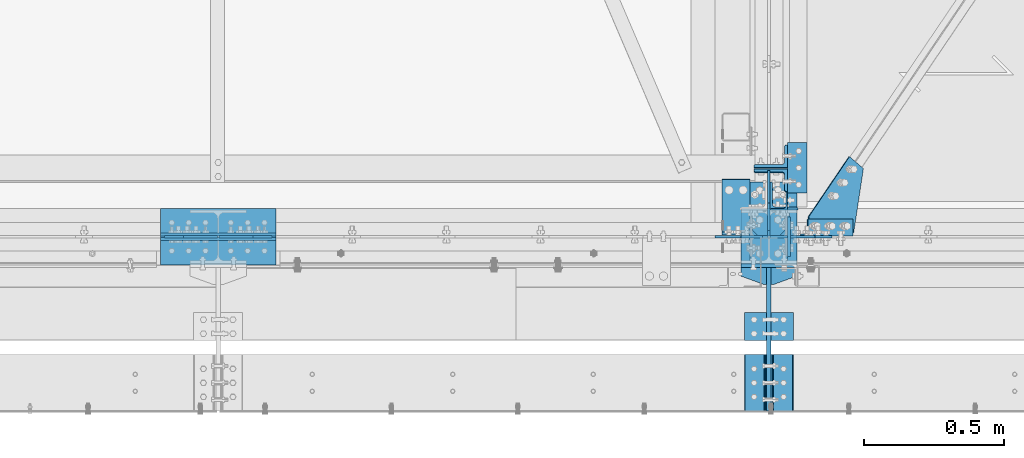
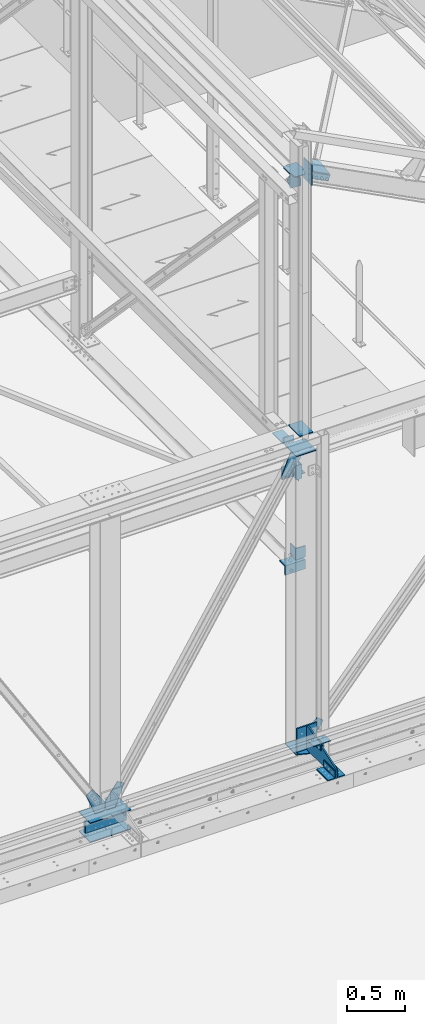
# One storey, part 85 of 362: 27 beams, 3 members, 21 elements without a shape of their own.
"""IFC2X3 building model written with IfcOpenShell, lengths in millimetres."""

from ifc_helpers import new_model, si_unit, frame, frame_2d, origin_with_axes, origin_2d_with_axis, place, context, subcontext, project, spatial, polyline, circle_curve, parameter, trimmed, segment, composite_curve, rectangle, l_section, outline, extrude, clip, halfspace, material, type_object, element, aggregate, save


model = new_model("IFC2X3")

# Units and contexts
model_context = context("Model", 3, precision=1e-05, world=origin_with_axes())
body_context = subcontext(model_context, "Body", "Model", "MODEL_VIEW")
ifc_project = project(units=[si_unit("LENGTHUNIT", "METRE", prefix="MILLI"), si_unit("AREAUNIT", "SQUARE_METRE"), si_unit("VOLUMEUNIT", "CUBIC_METRE"), si_unit("MASSUNIT", "GRAM", prefix="KILO"), si_unit("TIMEUNIT", "SECOND"), si_unit("PLANEANGLEUNIT", "RADIAN"), si_unit("SOLIDANGLEUNIT", "STERADIAN"), si_unit("THERMODYNAMICTEMPERATUREUNIT", "DEGREE_CELSIUS"), si_unit("LUMINOUSINTENSITYUNIT", "LUMEN")], contexts=[model_context])

# Site, building, storey
site_placement = place(None, origin_with_axes())
site = spatial("IfcSite", under=ifc_project, at=site_placement, Name="Undefined", CompositionType="ELEMENT")
building_placement = place(site_placement, origin_with_axes())
building = spatial("IfcBuilding", under=site, at=building_placement, Name="Undefined", CompositionType="ELEMENT")
storey_placement = place(building_placement, origin_with_axes())
storey = spatial("IfcBuildingStorey", under=building, at=storey_placement, Name="Undefined", CompositionType="ELEMENT", Elevation=0.0)

# Assembly, beam
assembly_1_placement = place(storey_placement, origin_with_axes())
assembly_1 = element("IfcElementAssembly", 1, at=assembly_1_placement, inside=storey, AssemblyPlace="NOTDEFINED", PredefinedType="NOTDEFINED")
ifc_material = material(Name="Undefined/S235-E24")
beam_type_1 = type_object("IfcBeamType", Name="L60*6", PredefinedType="NOTDEFINED")
beam_1_placement = place(assembly_1_placement, frame((23506.5000567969, 125.0, 8100.0), z_axis=(-1.0, 0.0, 0.0), x_axis=(0.0, 0.0, -1.0)))
beam_1 = element("IfcBeam", 2, at=beam_1_placement, type_object=beam_type_1, material=ifc_material, Name="ATTACHE", ObjectType="L60*6", context=body_context, shape_type="SweptSolid", body=[
    extrude(l_section(Depth=60.0, Width=60.0, Thickness=6.0, FilletRadius=8.0, EdgeRadius=4.0, at=origin_2d_with_axis()), frame((150.0, 0.0, 0.0), z_axis=(-1.0, 0.0, 0.0), x_axis=(0.0, -1.0, 0.0)), (0.0, 0.0, 1.0), 150.0),
])
aggregate(assembly_1, [beam_1])

assembly_2_placement = place(storey_placement, origin_with_axes())
assembly_2 = element("IfcElementAssembly", 3, at=assembly_2_placement, inside=storey, AssemblyPlace="NOTDEFINED", PredefinedType="NOTDEFINED")
beam_type_2 = type_object("IfcBeamType", Name="PL10*200", PredefinedType="NOTDEFINED")
beam_2_placement = place(assembly_2_placement, frame((21304.9998196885, 0.0, 4994.99960117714), z_axis=(0.0, 1.0, 0.0), x_axis=(0.999999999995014, 0.0, -3.15800000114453e-06)))
beam_2 = element("IfcBeam", 4, at=beam_2_placement, type_object=beam_type_2, material=ifc_material, Name="ECLISSE", ObjectType="PL10*200", context=body_context, shape_type="SweptSolid", body=[
    extrude(rectangle(XDim=10.0, YDim=200.0, at=origin_2d_with_axis()), frame((410.0, 0.0, 0.0), z_axis=(-1.0, 0.0, 0.0), x_axis=(0.0, -1.0, 0.0)), (0.0, 0.0, 1.0), 410.0),
])
aggregate(assembly_2, [beam_2])

# Assembly, beams
assembly_3_placement = place(storey_placement, origin_with_axes())
assembly_3 = element("IfcElementAssembly", 5, at=assembly_3_placement, inside=storey, Name="MONTANT", AssemblyPlace="NOTDEFINED", PredefinedType="NOTDEFINED")
beam_3_placement = place(assembly_3_placement, frame((23369.9982817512, 0.0, 8354.99930736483), z_axis=(0.0, 1.0, 0.0), x_axis=(1.0, 0.0, 0.0)))
beam_3 = element("IfcBeam", 6, at=beam_3_placement, type_object=beam_type_2, material=ifc_material, Name="PLATINE", ObjectType="PL10*200", context=body_context, shape_type="SweptSolid", body=[
    extrude(rectangle(XDim=10.0, YDim=200.0, at=origin_2d_with_axis()), frame((200.003108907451, 1.3235095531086e-21, 0.0), z_axis=(-1.0, 0.0, 0.0), x_axis=(0.0, -1.0, 0.0)), (0.0, 0.0, 1.0), 200.0),
])
beam_4_placement = place(assembly_3_placement, frame((23369.9982812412, 0.0, 5195.00069263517), z_axis=(0.0, 1.0, 0.0), x_axis=(1.0, 0.0, 0.0)))
beam_4 = element("IfcBeam", 7, at=beam_4_placement, type_object=beam_type_2, material=ifc_material, Name="PLATINE", ObjectType="PL10*200", context=body_context, shape_type="SweptSolid", body=[
    extrude(rectangle(XDim=10.0, YDim=200.0, at=origin_2d_with_axis()), frame((200.003108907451, 1.3235095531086e-21, 0.0), z_axis=(-1.0, 0.0, 0.0), x_axis=(0.0, -1.0, 0.0)), (0.0, 0.0, 1.0), 200.0),
])

# Assembly, beam
assembly_4_placement = place(storey_placement, origin_with_axes())
assembly_4 = element("IfcElementAssembly", 8, at=assembly_4_placement, inside=storey, Name="MONTANT", AssemblyPlace="NOTDEFINED", PredefinedType="NOTDEFINED")
beam_5_placement = place(assembly_4_placement, frame((21304.9998196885, 0.0, 5195.00039882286), z_axis=(0.0, 1.0, 0.0), x_axis=(0.999999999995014, 0.0, 3.15800000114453e-06)))
beam_5 = element("IfcBeam", 9, at=beam_5_placement, type_object=beam_type_2, material=ifc_material, Name="PLATINE", ObjectType="PL10*200", context=body_context, shape_type="SweptSolid", body=[
    extrude(rectangle(XDim=10.0, YDim=200.0, at=origin_2d_with_axis()), frame((410.0, 0.0, 0.0), z_axis=(-1.0, 0.0, 0.0), x_axis=(0.0, -1.0, 0.0)), (0.0, 0.0, 1.0), 410.0),
])

assembly_5_placement = place(storey_placement, origin_with_axes())
assembly_5 = element("IfcElementAssembly", 10, at=assembly_5_placement, inside=storey, AssemblyPlace="NOTDEFINED", PredefinedType="NOTDEFINED")
beam_type_3 = type_object("IfcBeamType", Name="L80*8", PredefinedType="NOTDEFINED")
beam_6_placement = place(assembly_5_placement, frame((23517.4921676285, -270.0, 5409.99824538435), z_axis=(0.0, 0.0, -1.0), x_axis=(0.0, -1.0, 0.0)))
beam_6 = element("IfcBeam", 11, at=beam_6_placement, type_object=beam_type_3, material=ifc_material, Name="ATTACHE", ObjectType="L80*8", context=body_context, shape_type="SweptSolid", body=[
    extrude(l_section(Depth=80.0, Width=80.0, Thickness=8.0, FilletRadius=10.0, EdgeRadius=5.0, at=origin_2d_with_axis()), frame((99.9999999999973, -1.63709046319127e-11, 7.73070496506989e-12), z_axis=(-1.0, 0.0, 0.0), x_axis=(0.0, -1.0, 0.0)), (0.0, 0.0, 1.0), 100.0),
])
aggregate(assembly_5, [beam_6])

assembly_6_placement = place(storey_placement, origin_with_axes())
assembly_6 = element("IfcElementAssembly", 12, at=assembly_6_placement, inside=storey, AssemblyPlace="NOTDEFINED", PredefinedType="NOTDEFINED")
beam_7_placement = place(assembly_6_placement, frame((23422.5, -370.0, 5409.99824538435), z_axis=(0.0, 0.0, -1.0), x_axis=(0.0, 1.0, 0.0)))
beam_7 = element("IfcBeam", 13, at=beam_7_placement, type_object=beam_type_3, material=ifc_material, Name="ATTACHE", ObjectType="L80*8", context=body_context, shape_type="SweptSolid", body=[
    extrude(l_section(Depth=80.0, Width=80.0, Thickness=8.0, FilletRadius=10.0, EdgeRadius=5.0, at=origin_2d_with_axis()), frame((99.9999999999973, -1.63709046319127e-11, 7.73070496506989e-12), z_axis=(-1.0, 0.0, 0.0), x_axis=(0.0, -1.0, 0.0)), (0.0, 0.0, 1.0), 100.0),
])
aggregate(assembly_6, [beam_7])

assembly_7_placement = place(storey_placement, origin_with_axes())
assembly_7 = element("IfcElementAssembly", 14, at=assembly_7_placement, inside=storey, AssemblyPlace="NOTDEFINED", PredefinedType="NOTDEFINED")
beam_8_placement = place(assembly_7_placement, frame((23517.4921676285, -620.0, 5269.99824538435), z_axis=(0.0, 0.0, 1.0), x_axis=(0.0, 1.0, 0.0)))
beam_8 = element("IfcBeam", 15, at=beam_8_placement, type_object=beam_type_3, material=ifc_material, Name="ATTACHE", ObjectType="L80*8", context=body_context, shape_type="SweptSolid", body=[
    extrude(l_section(Depth=80.0, Width=80.0, Thickness=8.0, FilletRadius=10.0, EdgeRadius=5.0, at=origin_2d_with_axis()), frame((200.0, 0.0, 0.0), z_axis=(-1.0, 0.0, 0.0), x_axis=(0.0, -1.0, 0.0)), (0.0, 0.0, 1.0), 200.0),
])
aggregate(assembly_7, [beam_8])

assembly_8_placement = place(storey_placement, origin_with_axes())
assembly_8 = element("IfcElementAssembly", 16, at=assembly_8_placement, inside=storey, AssemblyPlace="NOTDEFINED", PredefinedType="NOTDEFINED")
beam_9_placement = place(assembly_8_placement, frame((23422.5, -420.0, 5269.99824538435), z_axis=(0.0, 0.0, 1.0), x_axis=(0.0, -1.0, 0.0)))
beam_9 = element("IfcBeam", 17, at=beam_9_placement, type_object=beam_type_3, material=ifc_material, Name="ATTACHE", ObjectType="L80*8", context=body_context, shape_type="SweptSolid", body=[
    extrude(l_section(Depth=80.0, Width=80.0, Thickness=8.0, FilletRadius=10.0, EdgeRadius=5.0, at=origin_2d_with_axis()), frame((200.0, 0.0, 0.0), z_axis=(-1.0, 0.0, 0.0), x_axis=(0.0, -1.0, 0.0)), (0.0, 0.0, 1.0), 200.0),
])
aggregate(assembly_8, [beam_9])

# Assembly, beams
assembly_9_placement = place(storey_placement, origin_with_axes())
assembly_9 = element("IfcElementAssembly", 18, at=assembly_9_placement, inside=storey, Name="CONSOLE", AssemblyPlace="NOTDEFINED", PredefinedType="NOTDEFINED")
beam_type_4 = type_object("IfcBeamType", Name="TOLE10*60", PredefinedType="NOTDEFINED")
beam_10_placement = place(assembly_9_placement, frame((23370.0, -110.0, 5224.99824534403), z_axis=(0.0, 0.0, 1.0), x_axis=(0.0, -1.0, 0.0)))
beam_10 = element("IfcBeam", 19, at=beam_10_placement, type_object=beam_type_4, material=ifc_material, Name="RAIDISSEUR", ObjectType="TOLE10*60", context=body_context, shape_type="SweptSolid", body=[
    extrude(outline(polyline([(0.0, 0.0), (30.0, 0.0), (60.0, 82.5), (60.0, 117.5), (30.0, 200.0), (0.0, 200.0), (0.0, 0.0)])), frame((0.0, 0.0, -5.0), z_axis=(0.0, 0.0, 1.0), x_axis=(1.0, 0.0, 0.0)), (0.0, 0.0, 1.0), 10.0),
])
beam_type_5 = type_object("IfcBeamType", Name="PL15*200", PredefinedType="NOTDEFINED")
beam_11_placement = place(assembly_9_placement, frame((23470.0, -102.5, 5479.99824538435), z_axis=(1.0, 0.0, 0.0), x_axis=(0.0, 0.0, -1.0)))
beam_11 = element("IfcBeam", 20, at=beam_11_placement, type_object=beam_type_5, material=ifc_material, Name="PLATINE", ObjectType="PL15*200", context=body_context, shape_type="SweptSolid", body=[
    extrude(rectangle(XDim=15.0, YDim=200.0, at=origin_2d_with_axis()), frame((265.000000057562, 0.0, 0.0), z_axis=(-1.0, 0.0, 0.0), x_axis=(0.0, -1.0, 0.0)), (0.0, 0.0, 1.0), 265.0),
])
beam_type_6 = type_object("IfcBeamType", Name="TOLE15*250", PredefinedType="NOTDEFINED")
beam_12_placement = place(assembly_9_placement, frame((23470.0, -620.0, 5229.99824538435), z_axis=(-1.0, 0.0, 0.0), x_axis=(0.0, 0.0, 1.0)))
beam_12 = element("IfcBeam", 21, at=beam_12_placement, type_object=beam_type_6, material=ifc_material, Name="CONSOLE", ObjectType="TOLE15*250", context=body_context, shape_type="SweptSolid", body=[
    extrude(outline(polyline([(0.0, 0.0), (100.0, 0.0), (250.0, 450.0), (250.0, 510.0), (19.9999999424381, 510.0), (-5.53045894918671e-08, 490.0), (0.0, 0.0)])), frame((0.0, 0.0, -7.5), z_axis=(0.0, 0.0, 1.0), x_axis=(1.0, 0.0, 0.0)), (0.0, 0.0, 1.0), 15.0),
])
aggregate(assembly_9, [beam_10, beam_11, beam_12])

# Assembly, beam
assembly_10_placement = place(storey_placement, origin_with_axes())
assembly_10 = element("IfcElementAssembly", 22, at=assembly_10_placement, inside=storey, AssemblyPlace="NOTDEFINED", PredefinedType="NOTDEFINED")
beam_type_7 = type_object("IfcBeamType", Name="L70*7", PredefinedType="NOTDEFINED")
beam_13_placement = place(assembly_10_placement, frame((23571.5000574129, 335.0, 7915.0), z_axis=(0.0, 0.0, -1.0), x_axis=(0.0, -1.0, 0.0)))
beam_13 = element("IfcBeam", 23, at=beam_13_placement, type_object=beam_type_7, material=ifc_material, Name="ATTACHE", ObjectType="L70*7", context=body_context, shape_type="SweptSolid", body=[
    extrude(l_section(Depth=70.0, Width=70.0, Thickness=7.0, FilletRadius=9.0, EdgeRadius=4.5, at=origin_2d_with_axis()), frame((180.0, 0.0, 0.0), z_axis=(-1.0, 0.0, 0.0), x_axis=(0.0, -1.0, 0.0)), (0.0, 0.0, 1.0), 180.0),
])
aggregate(assembly_10, [beam_13])

# Assembly, member
assembly_11_placement = place(storey_placement, origin_with_axes())
assembly_11 = element("IfcElementAssembly", 24, at=assembly_11_placement, inside=storey, AssemblyPlace="NOTDEFINED", PredefinedType="NOTDEFINED")
member_type_1 = type_object("IfcMemberType", Name="L60*6", PredefinedType="NOTDEFINED")
member_1_placement = place(assembly_11_placement, frame((23755.3143945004, 33.0000627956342, 11104.2490486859), z_axis=(0.0, 1.0, 0.0), x_axis=(-0.887870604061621, -1.29999898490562e-08, 0.460093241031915)))
member_1 = element("IfcMember", 25, at=member_1_placement, type_object=member_type_1, material=ifc_material, Name="ATTACHE", ObjectType="L60*6", context=body_context, shape_type="SweptSolid", body=[
    extrude(l_section(Depth=60.0, Width=60.0, Thickness=6.0, FilletRadius=8.0, EdgeRadius=4.0, at=origin_2d_with_axis()), frame((180.0, 0.0, 0.0), z_axis=(-1.0, 0.0, 0.0), x_axis=(0.0, -1.0, 0.0)), (0.0, 0.0, 1.0), 180.0),
])
aggregate(assembly_11, [member_1])

# Assembly, beam
assembly_12_placement = place(storey_placement, origin_with_axes())
assembly_12 = element("IfcElementAssembly", 26, at=assembly_12_placement, inside=storey, AssemblyPlace="NOTDEFINED", PredefinedType="NOTDEFINED")
beam_type_8 = type_object("IfcBeamType", Name="TOLE6*178", PredefinedType="NOTDEFINED")
beam_14_placement = place(assembly_12_placement, frame((23805.2587665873, 242.886272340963, 11115.5356180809), z_axis=(0.460093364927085, 0.0, 0.887870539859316), x_axis=(-0.70611707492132, 0.606225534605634, 0.365908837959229)))
beam_14 = element("IfcBeam", 27, at=beam_14_placement, type_object=beam_type_8, material=ifc_material, Name="GOUSSET", ObjectType="TOLE6*178", context=body_context, shape_type="SweptSolid", body=[
    extrude(outline(polyline([(0.0, 0.0), (70.0, 0.0), (70.0000000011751, 269.669891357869), (34.9265289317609, 315.681945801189), (-108.226165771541, 206.561325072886), (0.0, 0.0)])), frame((0.0, 0.0, -3.0), z_axis=(0.0, 0.0, 1.0), x_axis=(1.0, 0.0, 0.0)), (0.0, 0.0, 1.0), 6.0),
])
aggregate(assembly_12, [beam_14])

assembly_13_placement = place(storey_placement, origin_with_axes())
assembly_13 = element("IfcElementAssembly", 28, at=assembly_13_placement, inside=storey, Name="MONTANT", AssemblyPlace="NOTDEFINED", PredefinedType="NOTDEFINED")
beam_type_9 = type_object("IfcBeamType", Name="PL10*133", PredefinedType="NOTDEFINED")
beam_15_placement = place(assembly_13_placement, frame((23470.0, 100.0, 8555.0), z_axis=(1.0, 0.0, 0.0), x_axis=(0.0, -1.0, 0.0)))
beam_15 = element("IfcBeam", 29, at=beam_15_placement, type_object=beam_type_9, material=ifc_material, Name="PLATINE", ObjectType="PL10*133", context=body_context, shape_type="SweptSolid", body=[
    extrude(rectangle(XDim=10.0, YDim=133.0, at=origin_2d_with_axis()), frame((200.0, 0.0, 0.0), z_axis=(-1.0, 0.0, 0.0), x_axis=(0.0, -1.0, 0.0)), (0.0, 0.0, 1.0), 200.0),
])

assembly_14_placement = place(storey_placement, origin_with_axes())
assembly_14 = element("IfcElementAssembly", 30, at=assembly_14_placement, inside=storey, AssemblyPlace="NOTDEFINED", PredefinedType="NOTDEFINED")
beam_type_10 = type_object("IfcBeamType", Name="L200*100*10", PredefinedType="NOTDEFINED")
beam_16_placement = place(assembly_14_placement, frame((23303.4999986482, 106.0, 8490.0), z_axis=(0.0, 1.0, 0.0), x_axis=(1.0, 0.0, 0.0)))
beam_16 = element("IfcBeam", 31, at=beam_16_placement, type_object=beam_type_10, material=ifc_material, Name="ATTACHE", ObjectType="L200*100*10", context=body_context, shape_type="Clipping", body=[
    clip(extrude(l_section(Depth=200.0, Width=100.0, Thickness=10.0, FilletRadius=15.0, EdgeRadius=7.5, at=origin_2d_with_axis()), frame((99.9999999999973, -1.63709046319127e-11, 7.73070496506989e-12), z_axis=(-1.0, 0.0, 0.0), x_axis=(0.0, -1.0, 0.0)), (0.0, 0.0, 1.0), 100.0), halfspace(frame((100.0, -20.0, -100.0), z_axis=(0.0, -1.0, 0.0), x_axis=(-1.0, 0.0, 0.0)), False)),
])
aggregate(assembly_14, [beam_16])

assembly_15_placement = place(storey_placement, origin_with_axes())
assembly_15 = element("IfcElementAssembly", 32, at=assembly_15_placement, inside=storey, Name="TRAVERSE SHED", AssemblyPlace="NOTDEFINED", PredefinedType="NOTDEFINED")
beam_type_11 = type_object("IfcBeamType", Name="PL10*140", PredefinedType="NOTDEFINED")
beam_17_placement = place(assembly_15_placement, frame((23541.5, 0.0, 11360.8449760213), z_axis=(0.0, -1.0, 0.0), x_axis=(0.0, 0.0, -1.0)))
beam_17 = element("IfcBeam", 33, at=beam_17_placement, type_object=beam_type_11, material=ifc_material, Name="PLATINE", ObjectType="PL10*140", context=body_context, shape_type="SweptSolid", body=[
    extrude(rectangle(XDim=10.0, YDim=140.0, at=origin_2d_with_axis()), frame((215.684581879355, 0.0, 0.0), z_axis=(-1.0, 0.0, 0.0), x_axis=(0.0, -1.0, 0.0)), (0.0, 0.0, 1.0), 215.68),
])
aggregate(assembly_15, [beam_17])

# Assembly, member
assembly_16_placement = place(storey_placement, origin_with_axes())
assembly_16 = element("IfcElementAssembly", 34, at=assembly_16_placement, inside=storey, AssemblyPlace="NOTDEFINED", PredefinedType="NOTDEFINED")
member_type_2 = type_object("IfcMemberType", Name="L120*80*10", PredefinedType="NOTDEFINED")
member_2_placement = place(assembly_16_placement, frame((23476.5000567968, 287.037388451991, 8010.96467073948), z_axis=(-1.0, 0.0, 0.0), x_axis=(-1.05403257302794e-09, -0.0314112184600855, -0.999506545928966)))
member_2 = element("IfcMember", 35, at=member_2_placement, type_object=member_type_2, material=ifc_material, Name="ATTACHE", ObjectType="L120*80*10", context=body_context, shape_type="SweptSolid", body=[
    extrude(l_section(Depth=120.0, Width=80.0, Thickness=10.0, FilletRadius=11.0, EdgeRadius=5.5, at=origin_2d_with_axis()), frame((120.0, 0.0, 0.0), z_axis=(-1.0, 0.0, 0.0), x_axis=(0.0, -1.0, 0.0)), (0.0, 0.0, 1.0), 120.0),
])
aggregate(assembly_16, [member_2])

assembly_17_placement = place(storey_placement, origin_with_axes())
assembly_17 = element("IfcElementAssembly", 36, at=assembly_17_placement, inside=storey, AssemblyPlace="NOTDEFINED", PredefinedType="NOTDEFINED")
member_3_placement = place(assembly_17_placement, frame((23476.5000567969, 197.309617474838, 7893.72527706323), z_axis=(-1.0, 0.0, 0.0), x_axis=(7.58071938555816e-11, 0.0314107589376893, 0.999506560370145)))
member_3 = element("IfcMember", 37, at=member_3_placement, type_object=member_type_2, material=ifc_material, Name="ATTACHE", ObjectType="L120*80*10", context=body_context, shape_type="SweptSolid", body=[
    extrude(l_section(Depth=120.0, Width=80.0, Thickness=10.0, FilletRadius=11.0, EdgeRadius=5.5, at=origin_2d_with_axis()), frame((120.0, 0.0, 0.0), z_axis=(-1.0, 0.0, 0.0), x_axis=(0.0, -1.0, 0.0)), (0.0, 0.0, 1.0), 120.0),
])
aggregate(assembly_17, [member_3])

# Assembly, beam
assembly_18_placement = place(storey_placement, origin_with_axes())
assembly_18 = element("IfcElementAssembly", 38, at=assembly_18_placement, inside=storey, AssemblyPlace="NOTDEFINED", PredefinedType="NOTDEFINED")
beam_type_12 = type_object("IfcBeamType", Name="L100*10", PredefinedType="NOTDEFINED")
beam_18_placement = place(assembly_18_placement, frame((23523.5000000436, 145.002301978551, 7224.49999757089), z_axis=(0.0, 1.0, 0.0), x_axis=(0.0, 0.0, -1.0)))
beam_18 = element("IfcBeam", 39, at=beam_18_placement, type_object=beam_type_12, material=ifc_material, Name="ATTACHE", ObjectType="L100*10", context=body_context, shape_type="SweptSolid", body=[
    extrude(l_section(Depth=100.0, Width=100.0, Thickness=10.0, FilletRadius=12.0, EdgeRadius=6.0, at=origin_2d_with_axis()), frame((120.0, 0.0, 0.0), z_axis=(-1.0, 0.0, 0.0), x_axis=(0.0, -1.0, 0.0)), (0.0, 0.0, 1.0), 120.0),
])
aggregate(assembly_18, [beam_18])

assembly_19_placement = place(storey_placement, origin_with_axes())
assembly_19 = element("IfcElementAssembly", 40, at=assembly_19_placement, inside=storey, AssemblyPlace="NOTDEFINED", PredefinedType="NOTDEFINED")
beam_19_placement = place(assembly_19_placement, frame((23369.9992355, 145.003057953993, 7029.0), z_axis=(0.0, 0.0, -1.0), x_axis=(0.999999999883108, 1.52899999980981e-05, 0.0)))
beam_19 = element("IfcBeam", 41, at=beam_19_placement, type_object=beam_type_12, material=ifc_material, Name="ATTACHE", ObjectType="L100*10", context=body_context, shape_type="SweptSolid", body=[
    extrude(l_section(Depth=100.0, Width=100.0, Thickness=10.0, FilletRadius=12.0, EdgeRadius=6.0, at=origin_2d_with_axis()), frame((200.0, 0.0, 0.0), z_axis=(-1.0, 0.0, 0.0), x_axis=(0.0, -1.0, 0.0)), (0.0, 0.0, 1.0), 200.0),
])
aggregate(assembly_19, [beam_19])

# Beam
beam_type_13 = type_object("IfcBeamType", Name="TOLE10*192", PredefinedType="NOTDEFINED")
beam_20_placement = place(assembly_13_placement, frame((23403.5, 195.0, 11231.0), z_axis=(0.0, 0.0, 1.0), x_axis=(0.0, -1.0, 0.0)))
beam_20 = element("IfcBeam", 42, at=beam_20_placement, type_object=beam_type_13, material=ifc_material, Name="PLAT", ObjectType="TOLE10*192", context=body_context, shape_type="SweptSolid", body=[
    extrude(outline(composite_curve([segment(trimmed(circle_curve(frame_2d((10.0, 10.0), x_axis=(-1.0, 0.0)), 10.0), [parameter(0.0)], [parameter(1.5707963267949)], True, "PARAMETER"), True, "CONTINUOUS"), segment(polyline([(9.99999999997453, 6.91215973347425e-11), (124.5, 0.0), (124.5, 9.0), (172.25, 9.0), (192.25, 29.0), (192.25, 104.0), (172.25, 124.0), (124.0, 124.0), (124.0, 140.0), (10.0, 140.0)]), True, "CONTINUOUS"), segment(trimmed(circle_curve(frame_2d((10.0, 130.0), x_axis=(0.0, 1.0)), 10.0), [parameter(0.0)], [parameter(1.5707963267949)], True, "PARAMETER"), True, "CONTINUOUS"), segment(polyline([(0.0, 130.0), (-1.81898940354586e-10, 10.0000000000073)]), True, "CONTINUOUS")], self_intersect=True)), frame((0.0, 0.0, -5.0), z_axis=(0.0, 0.0, 1.0), x_axis=(1.0, 0.0, 0.0)), (0.0, 0.0, 1.0), 10.0),
])

beam_type_14 = type_object("IfcBeamType", Name="TOLE8*235", PredefinedType="NOTDEFINED")
beam_21_placement = place(assembly_13_placement, frame((23470.0, 2.75000000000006, 11226.0), z_axis=(-1.0, 0.0, 0.0), x_axis=(0.0, 1.0, 0.0)))
beam_21 = element("IfcBeam", 43, at=beam_21_placement, type_object=beam_type_14, material=ifc_material, Name="GOUSSET", ObjectType="TOLE8*235", context=body_context, shape_type="SweptSolid", body=[
    extrude(outline(polyline([(1.47401806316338e-08, 20.0000000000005), (19.9999999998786, -3.63797880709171e-12), (117.25, 0.0), (233.212432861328, 179.537170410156), (175.309005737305, 234.738555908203), (0.0, 100.0), (1.47401806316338e-08, 20.0000000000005)])), frame((0.0, 0.0, -4.0), z_axis=(0.0, 0.0, 1.0), x_axis=(1.0, 0.0, 0.0)), (0.0, 0.0, 1.0), 8.0),
])

aggregate(assembly_13, [beam_15, beam_21, beam_20])

# Assembly, beam
assembly_20_placement = place(storey_placement, origin_with_axes())
assembly_20 = element("IfcElementAssembly", 44, at=assembly_20_placement, inside=storey, AssemblyPlace="NOTDEFINED", PredefinedType="NOTDEFINED")
beam_type_15 = type_object("IfcBeamType", Name="PL10*120", PredefinedType="NOTDEFINED")
beam_22_placement = place(assembly_20_placement, frame((21304.9998354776, 8.5, 5095.0), z_axis=(0.0, 0.0, 1.0), x_axis=(1.0, 0.0, 0.0)))
beam_22 = element("IfcBeam", 45, at=beam_22_placement, type_object=beam_type_15, material=ifc_material, Name="ECLISSE", ObjectType="PL10*120", context=body_context, shape_type="SweptSolid", body=[
    extrude(rectangle(XDim=10.0, YDim=120.0, at=origin_2d_with_axis()), frame((410.0, 0.0, 0.0), z_axis=(-1.0, 0.0, 0.0), x_axis=(0.0, -1.0, 0.0)), (0.0, 0.0, 1.0), 410.0),
])
aggregate(assembly_20, [beam_22])

assembly_21_placement = place(storey_placement, origin_with_axes())
assembly_21 = element("IfcElementAssembly", 46, at=assembly_21_placement, inside=storey, AssemblyPlace="NOTDEFINED", PredefinedType="NOTDEFINED")
beam_23_placement = place(assembly_21_placement, frame((21304.9998354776, -8.5, 5095.0), z_axis=(0.0, 0.0, 1.0), x_axis=(1.0, 0.0, 0.0)))
beam_23 = element("IfcBeam", 47, at=beam_23_placement, type_object=beam_type_15, material=ifc_material, Name="ECLISSE", ObjectType="PL10*120", context=body_context, shape_type="SweptSolid", body=[
    extrude(rectangle(XDim=10.0, YDim=120.0, at=origin_2d_with_axis()), frame((410.0, 0.0, 0.0), z_axis=(-1.0, 0.0, 0.0), x_axis=(0.0, -1.0, 0.0)), (0.0, 0.0, 1.0), 410.0),
])
aggregate(assembly_21, [beam_23])

# Beam
beam_type_16 = type_object("IfcBeamType", Name="TOLE8*136", PredefinedType="NOTDEFINED")
beam_24_placement = place(assembly_3_placement, frame((23473.25, 0.0, 5300.0), z_axis=(0.0, -1.0, 0.0), x_axis=(0.0, 0.0, -1.0)))
beam_24 = element("IfcBeam", 48, at=beam_24_placement, type_object=beam_type_16, material=ifc_material, Name="GOUSSET", ObjectType="TOLE8*136", context=body_context, shape_type="SweptSolid", body=[
    extrude(outline(polyline([(0.0, 0.0), (80.00000000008, 8.00355337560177e-11), (99.9998580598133, 19.9999999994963), (99.9993133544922, 96.7513885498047), (-92.2446060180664, 221.910827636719), (-144.173431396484, 161.055267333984), (0.0, 0.0)])), frame((0.0, 0.0, -4.0), z_axis=(0.0, 0.0, 1.0), x_axis=(1.0, 0.0, 0.0)), (0.0, 0.0, 1.0), 8.0),
])

beam_type_17 = type_object("IfcBeamType", Name="TOLE8*127", PredefinedType="NOTDEFINED")
beam_25_placement = place(assembly_3_placement, frame((23369.9982815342, 0.0, 8349.99930736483), z_axis=(0.0, 1.0, 0.0), x_axis=(0.999999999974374, 0.0, 7.15900000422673e-06)))
beam_25 = element("IfcBeam", 49, at=beam_25_placement, type_object=beam_type_17, material=ifc_material, Name="GOUSSET", ObjectType="TOLE8*127", context=body_context, shape_type="SweptSolid", body=[
    extrude(outline(polyline([(0.0, 0.0), (76.7517166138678, 0.0), (96.7515747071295, 19.9999999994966), (96.7510070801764, 100.000000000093), (-23.7460117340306, 266.200805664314), (-91.7897796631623, 224.128860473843), (0.0, 0.0)])), frame((0.0, 0.0, -4.0), z_axis=(0.0, 0.0, 1.0), x_axis=(1.0, 0.0, 0.0)), (0.0, 0.0, 1.0), 8.0),
])

aggregate(assembly_3, [beam_24, beam_25, beam_3, beam_4])

beam_26_placement = place(assembly_4_placement, frame((21513.2498361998, 0.0, 5200.00068813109), z_axis=(0.0, 1.0, 0.0), x_axis=(0.0, 0.0, 1.0)))
beam_26 = element("IfcBeam", 50, at=beam_26_placement, type_object=beam_type_17, material=ifc_material, Name="GOUSSET", ObjectType="TOLE8*127", context=body_context, shape_type="SweptSolid", body=[
    extrude(outline(polyline([(1.47401806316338e-08, 20.0000000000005), (19.9999999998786, -3.63797880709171e-12), (100.0, 0.0), (266.200958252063, 120.495819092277), (224.129531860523, 188.539886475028), (8.6708132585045e-07, 96.7515563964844), (1.47401806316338e-08, 20.0000000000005)])), frame((0.0, 0.0, -4.0), z_axis=(0.0, 0.0, 1.0), x_axis=(1.0, 0.0, 0.0)), (0.0, 0.0, 1.0), 8.0),
])

beam_27_placement = place(assembly_4_placement, frame((21506.7498362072, 0.0, 5200.00068846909), z_axis=(0.0, 1.0, 0.0), x_axis=(-1.0, 0.0, 0.0)))
beam_27 = element("IfcBeam", 51, at=beam_27_placement, type_object=beam_type_17, material=ifc_material, Name="GOUSSET", ObjectType="TOLE8*127", context=body_context, shape_type="SweptSolid", body=[
    extrude(outline(polyline([(1.47401806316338e-08, 20.0000000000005), (19.9999999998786, -3.63797880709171e-12), (96.7515563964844, -4.38376446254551e-10), (188.539886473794, 224.129531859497), (120.495826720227, 266.200958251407), (0.0, 100.0), (1.47401806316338e-08, 20.0000000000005)])), frame((0.0, 0.0, -4.0), z_axis=(0.0, 0.0, 1.0), x_axis=(1.0, 0.0, 0.0)), (0.0, 0.0, 1.0), 8.0),
])

aggregate(assembly_4, [beam_26, beam_27, beam_5])

save(model, "model.ifc")
